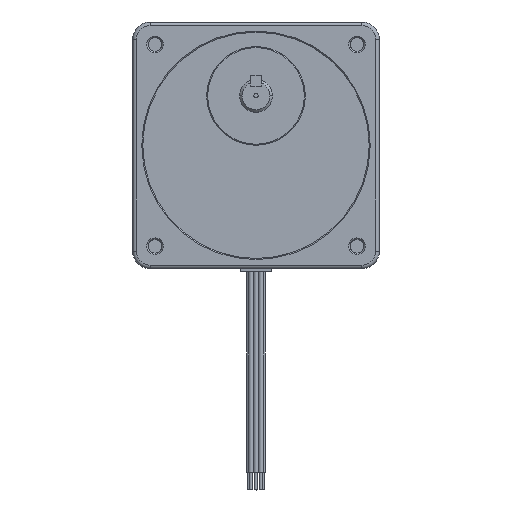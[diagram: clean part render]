
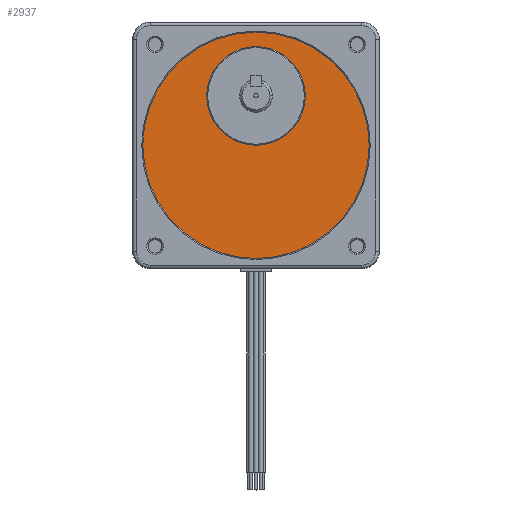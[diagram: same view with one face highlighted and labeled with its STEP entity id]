
A CAD part, top view. The second image highlights one B-rep face of the part: STEP entity #2937.
In plain terms, the highlighted planar face has unit normal (0, 0, 1).
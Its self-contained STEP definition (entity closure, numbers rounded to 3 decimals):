
#593 = EDGE_LOOP ( 'NONE', ( #2931, #2951 ) ) ;
#2931 = ORIENTED_EDGE ( 'NONE', *, *, #2932, .F. ) ;
#2932 = EDGE_CURVE ( 'NONE', #4317, #4602, #15232, .T. ) ;
#2933 = EDGE_LOOP ( 'NONE', ( #2945, #2936 ) ) ;
#2936 = ORIENTED_EDGE ( 'NONE', *, *, #4811, .T. ) ;
#2937 = ADVANCED_FACE ( 'NONE', ( #15233, #15266 ), #15261, .T. ) ;
#2945 = ORIENTED_EDGE ( 'NONE', *, *, #2949, .T. ) ;
#2949 = EDGE_CURVE ( 'NONE', #4899, #4945, #15301, .T. ) ;
#2951 = ORIENTED_EDGE ( 'NONE', *, *, #4294, .F. ) ;
#4294 = EDGE_CURVE ( 'NONE', #4602, #4317, #16008, .T. ) ;
#4317 = VERTEX_POINT ( 'NONE', #15996 ) ;
#4602 = VERTEX_POINT ( 'NONE', #16018 ) ;
#4811 = EDGE_CURVE ( 'NONE', #4945, #4899, #16092, .T. ) ;
#4899 = VERTEX_POINT ( 'NONE', #16055 ) ;
#4945 = VERTEX_POINT ( 'NONE', #16068 ) ;
#15232 = CIRCLE ( 'NONE', #15278, 17.996 ) ;
#15233 = FACE_OUTER_BOUND ( 'NONE', #2933, .T. ) ;
#15261 = PLANE ( 'NONE',  #15272 ) ;
#15266 = FACE_BOUND ( 'NONE', #593, .T. ) ;
#15268 = DIRECTION ( 'NONE',  ( 1., 0., 0. ) ) ;
#15269 = DIRECTION ( 'NONE',  ( 0., 0., 1. ) ) ;
#15272 = AXIS2_PLACEMENT_3D ( 'NONE', #15297, #15296, #15295 ) ;
#15276 = CARTESIAN_POINT ( 'NONE',  ( 0., 18.009, 41.012 ) ) ;
#15278 = AXIS2_PLACEMENT_3D ( 'NONE', #15276, #15269, #15268 ) ;
#15286 = CARTESIAN_POINT ( 'NONE',  ( 0., 0., 41.012 ) ) ;
#15288 = AXIS2_PLACEMENT_3D ( 'NONE', #15286, #15328, #15327 ) ;
#15295 = DIRECTION ( 'NONE',  ( 1., 0., 0. ) ) ;
#15296 = DIRECTION ( 'NONE',  ( 0., 0., 1. ) ) ;
#15297 = CARTESIAN_POINT ( 'NONE',  ( 0., 0., 41.012 ) ) ;
#15301 = CIRCLE ( 'NONE', #15288, 41.275 ) ;
#15327 = DIRECTION ( 'NONE',  ( 1., 0., 0. ) ) ;
#15328 = DIRECTION ( 'NONE',  ( 0., 0., 1. ) ) ;
#15956 = AXIS2_PLACEMENT_3D ( 'NONE', #16001, #16000, #15999 ) ;
#15996 = CARTESIAN_POINT ( 'NONE',  ( -17.996, 18.009, 41.012 ) ) ;
#15999 = DIRECTION ( 'NONE',  ( 1., 0., 0. ) ) ;
#16000 = DIRECTION ( 'NONE',  ( 0., 0., 1. ) ) ;
#16001 = CARTESIAN_POINT ( 'NONE',  ( 0., 18.009, 41.012 ) ) ;
#16008 = CIRCLE ( 'NONE', #15956, 17.996 ) ;
#16018 = CARTESIAN_POINT ( 'NONE',  ( 17.996, 18.009, 41.012 ) ) ;
#16055 = CARTESIAN_POINT ( 'NONE',  ( 41.275, 0., 41.012 ) ) ;
#16068 = CARTESIAN_POINT ( 'NONE',  ( -41.275, 0., 41.012 ) ) ;
#16076 = DIRECTION ( 'NONE',  ( 1., 0., 0. ) ) ;
#16077 = DIRECTION ( 'NONE',  ( 0., 0., 1. ) ) ;
#16085 = CARTESIAN_POINT ( 'NONE',  ( 0., 0., 41.012 ) ) ;
#16087 = AXIS2_PLACEMENT_3D ( 'NONE', #16085, #16077, #16076 ) ;
#16092 = CIRCLE ( 'NONE', #16087, 41.275 ) ;
